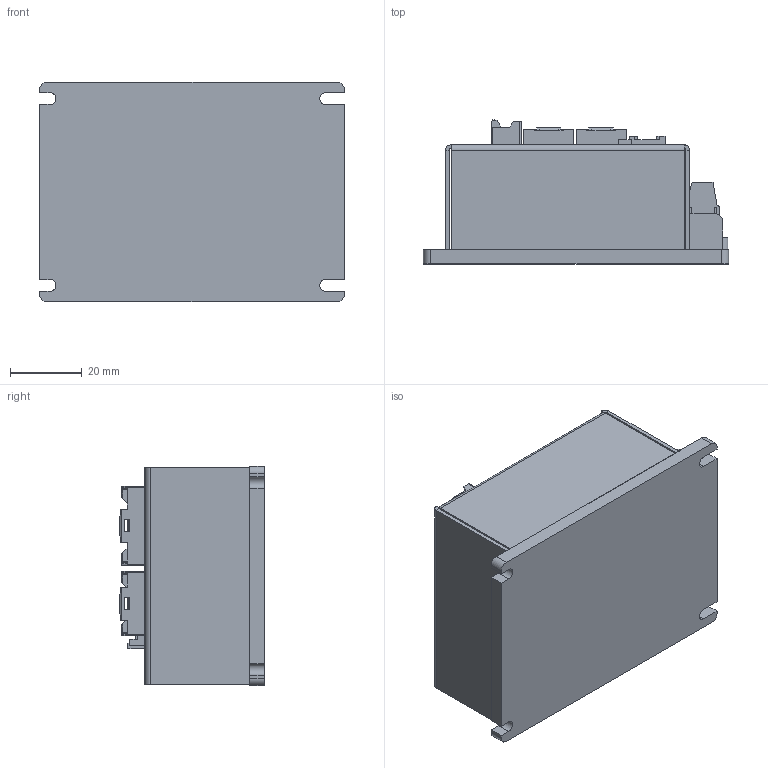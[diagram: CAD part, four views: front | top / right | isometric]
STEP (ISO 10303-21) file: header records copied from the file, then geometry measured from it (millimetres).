
FILE_DESCRIPTION((''),'2;1');
FILE_NAME('000_ASM','2019-11-18T17:51:15',('RD0060'),(''),'CREO PARAMETRIC BY PTC INC, 2016390','CREO PARAMETRIC BY PTC INC, 2016390','');
FILE_SCHEMA(('CONFIG_CONTROL_DESIGN'));
Length unit declared in the file: millimetre
Products named in the file (32): PCBA; DINKLE_EK508V-XXP_1_1; DINKLE_EK508V-XXP_1_2; DINKLE_EK508V-XXP_1_3; DINKLE_EK508V-XXP_1_4; DINKLE_EK508V-XXP_1_5; DINKLE_EK508V-XXP_1_6; DINKLE_EK508V-XXP_1_7; DINKLE_EK508V-XXP_1_8; DINKLE_EK508V-XXP_1_9; DINKLE_EK508V-XXP_1_ASM; DINKLE_EK508V-08P_ASM; APCB_ASM; PCBB; BPCB_ASM; PCBC; 5016451620; 5016452020; CJTA2008WV-4P; BOMA; 559320530; HS9016; CPCB_ASM; PCB_ASM; HT; TR; MOU3X8; MOU3X4; OD124SHS2; OD124SHS3; HS_ASM; 000_ASM
Assembly tree (43 placements, depth 6):
  000_ASM
    PCB_ASM
      APCB_ASM
        PCBA
        DINKLE_EK508V-08P_ASM
          DINKLE_EK508V-XXP_1_ASM
            DINKLE_EK508V-XXP_1_1
            DINKLE_EK508V-XXP_1_2
            DINKLE_EK508V-XXP_1_3
            DINKLE_EK508V-XXP_1_4
            DINKLE_EK508V-XXP_1_5
            DINKLE_EK508V-XXP_1_6
            DINKLE_EK508V-XXP_1_7
            DINKLE_EK508V-XXP_1_8
            DINKLE_EK508V-XXP_1_9
      BPCB_ASM
        PCBB
      CPCB_ASM
        PCBC
        5016451620
        5016452020
        CJTA2008WV-4P
        BOMA
        559320530  x2
        HS9016  x2
    HT
    TR
    MOU3X8  x8
    MOU3X4  x4
    HS_ASM
      OD124SHS2
      OD124SHS3
Bounding box: 85 x 40.2 x 61 mm (x, y, z)
Volume: 78423.1 mm3; surface area: 78696.1 mm2
Topology: 38 solids, 38 shells, 2584 faces, 6303 edges, 4026 vertices
Faces by surface type: plane 2003, cylinder 487, cone 38, torus 32, sphere 16, bspline 8
Entity records: 61152 total; most frequent: CARTESIAN_POINT 10991, DIRECTION 10243, ORIENTED_EDGE 10054, EDGE_CURVE 5027, VECTOR 4059, LINE 4059, VERTEX_POINT 3199, AXIS2_PLACEMENT_3D 3092
